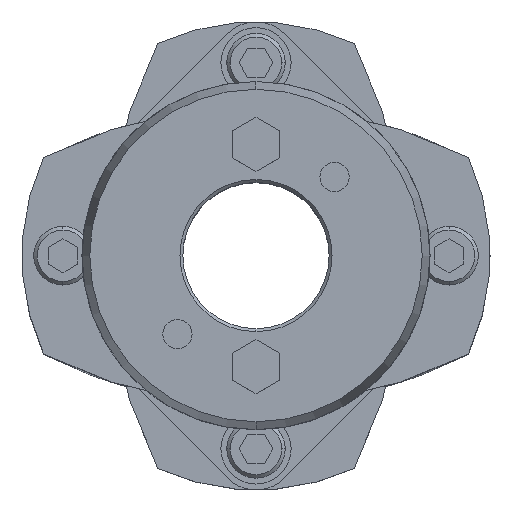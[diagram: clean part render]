
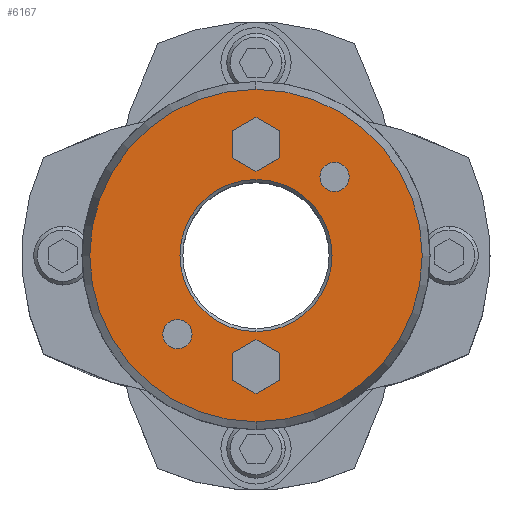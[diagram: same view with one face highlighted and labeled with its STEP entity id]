
A CAD part, top view. The second image highlights one B-rep face of the part: STEP entity #6167.
In plain terms, the highlighted planar face has unit normal (0, 0, 1).
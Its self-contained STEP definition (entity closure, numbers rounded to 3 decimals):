
#1677=CARTESIAN_POINT('',(0.,13.,45.25));
#1678=VERTEX_POINT('',#1677);
#1694=CARTESIAN_POINT('',(0.,-13.,45.25));
#1695=VERTEX_POINT('',#1694);
#1702=CARTESIAN_POINT('',(0.,0.,45.25));
#1703=DIRECTION('',(0.0,0.0,1.0));
#1704=DIRECTION('',(0.,1.0,0.0));
#1705=AXIS2_PLACEMENT_3D('',#1702,#1703,#1704);
#1706=CIRCLE('',#1705,13.0);
#1707=EDGE_CURVE('',#1695,#1678,#1706,.T.);
#1823=CARTESIAN_POINT('',(0.,-28.41,45.25));
#1824=VERTEX_POINT('',#1823);
#1833=CARTESIAN_POINT('',(0.,28.41,45.25));
#1834=VERTEX_POINT('',#1833);
#1835=CARTESIAN_POINT('',(0.,0.,45.25));
#1836=DIRECTION('',(0.0,0.0,-1.0));
#1837=DIRECTION('',(0.,-1.0,0.0));
#1838=AXIS2_PLACEMENT_3D('',#1835,#1836,#1837);
#1839=CIRCLE('',#1838,28.41);
#1840=EDGE_CURVE('',#1824,#1834,#1839,.T.);
#2009=CARTESIAN_POINT('',(13.435,15.935,45.25));
#2010=VERTEX_POINT('',#2009);
#2026=CARTESIAN_POINT('',(13.435,10.935,45.25));
#2027=VERTEX_POINT('',#2026);
#2034=CARTESIAN_POINT('',(13.435,13.435,45.25));
#2035=DIRECTION('',(0.0,0.0,-1.0));
#2036=DIRECTION('',(0.,1.0,0.0));
#2037=AXIS2_PLACEMENT_3D('',#2034,#2035,#2036);
#2038=CIRCLE('',#2037,2.5);
#2039=EDGE_CURVE('',#2010,#2027,#2038,.T.);
#2051=CARTESIAN_POINT('',(-13.435,-10.935,45.25));
#2052=VERTEX_POINT('',#2051);
#2068=CARTESIAN_POINT('',(-13.435,-15.935,45.25));
#2069=VERTEX_POINT('',#2068);
#2076=CARTESIAN_POINT('',(-13.435,-13.435,45.25));
#2077=DIRECTION('',(0.0,0.0,-1.0));
#2078=DIRECTION('',(0.,1.0,0.0));
#2079=AXIS2_PLACEMENT_3D('',#2076,#2077,#2078);
#2080=CIRCLE('',#2079,2.5);
#2081=EDGE_CURVE('',#2052,#2069,#2080,.T.);
#5293=CARTESIAN_POINT('',(0.,-14.381,45.25));
#5294=VERTEX_POINT('',#5293);
#5301=CARTESIAN_POINT('',(-4.,-16.691,45.25));
#5302=VERTEX_POINT('',#5301);
#5303=CARTESIAN_POINT('',(-4.,-16.691,45.25));
#5304=DIRECTION('',(0.866,0.5,0.0));
#5305=VECTOR('',#5304,4.619);
#5306=LINE('',#5303,#5305);
#5307=EDGE_CURVE('',#5302,#5294,#5306,.T.);
#5331=CARTESIAN_POINT('',(4.,-16.691,45.25));
#5332=VERTEX_POINT('',#5331);
#5339=CARTESIAN_POINT('',(0.,-14.381,45.25));
#5340=DIRECTION('',(0.866,-0.5,0.0));
#5341=VECTOR('',#5340,4.619);
#5342=LINE('',#5339,#5341);
#5343=EDGE_CURVE('',#5294,#5332,#5342,.T.);
#5362=CARTESIAN_POINT('',(4.,-21.309,45.25));
#5363=VERTEX_POINT('',#5362);
#5370=CARTESIAN_POINT('',(4.,-16.691,45.25));
#5371=DIRECTION('',(0.,-1.0,0.0));
#5372=VECTOR('',#5371,4.619);
#5373=LINE('',#5370,#5372);
#5374=EDGE_CURVE('',#5332,#5363,#5373,.T.);
#5393=CARTESIAN_POINT('',(0.,-23.619,45.25));
#5394=VERTEX_POINT('',#5393);
#5401=CARTESIAN_POINT('',(4.,-21.309,45.25));
#5402=DIRECTION('',(-0.866,-0.5,0.0));
#5403=VECTOR('',#5402,4.619);
#5404=LINE('',#5401,#5403);
#5405=EDGE_CURVE('',#5363,#5394,#5404,.T.);
#5424=CARTESIAN_POINT('',(-4.,-21.309,45.25));
#5425=VERTEX_POINT('',#5424);
#5432=CARTESIAN_POINT('',(0.,-23.619,45.25));
#5433=DIRECTION('',(-0.866,0.5,0.0));
#5434=VECTOR('',#5433,4.619);
#5435=LINE('',#5432,#5434);
#5436=EDGE_CURVE('',#5394,#5425,#5435,.T.);
#5454=CARTESIAN_POINT('',(-4.,-21.309,45.25));
#5455=DIRECTION('',(0.,1.0,0.0));
#5456=VECTOR('',#5455,4.619);
#5457=LINE('',#5454,#5456);
#5458=EDGE_CURVE('',#5425,#5302,#5457,.T.);
#5493=CARTESIAN_POINT('',(0.,23.619,45.25));
#5494=VERTEX_POINT('',#5493);
#5501=CARTESIAN_POINT('',(-4.,21.309,45.25));
#5502=VERTEX_POINT('',#5501);
#5503=CARTESIAN_POINT('',(-4.,21.309,45.25));
#5504=DIRECTION('',(0.866,0.5,0.0));
#5505=VECTOR('',#5504,4.619);
#5506=LINE('',#5503,#5505);
#5507=EDGE_CURVE('',#5502,#5494,#5506,.T.);
#5531=CARTESIAN_POINT('',(4.,21.309,45.25));
#5532=VERTEX_POINT('',#5531);
#5539=CARTESIAN_POINT('',(0.,23.619,45.25));
#5540=DIRECTION('',(0.866,-0.5,0.0));
#5541=VECTOR('',#5540,4.619);
#5542=LINE('',#5539,#5541);
#5543=EDGE_CURVE('',#5494,#5532,#5542,.T.);
#5562=CARTESIAN_POINT('',(4.,16.691,45.25));
#5563=VERTEX_POINT('',#5562);
#5570=CARTESIAN_POINT('',(4.,21.309,45.25));
#5571=DIRECTION('',(0.,-1.0,0.0));
#5572=VECTOR('',#5571,4.619);
#5573=LINE('',#5570,#5572);
#5574=EDGE_CURVE('',#5532,#5563,#5573,.T.);
#5593=CARTESIAN_POINT('',(0.,14.381,45.25));
#5594=VERTEX_POINT('',#5593);
#5601=CARTESIAN_POINT('',(4.,16.691,45.25));
#5602=DIRECTION('',(-0.866,-0.5,0.0));
#5603=VECTOR('',#5602,4.619);
#5604=LINE('',#5601,#5603);
#5605=EDGE_CURVE('',#5563,#5594,#5604,.T.);
#5624=CARTESIAN_POINT('',(-4.,16.691,45.25));
#5625=VERTEX_POINT('',#5624);
#5632=CARTESIAN_POINT('',(0.,14.381,45.25));
#5633=DIRECTION('',(-0.866,0.5,0.0));
#5634=VECTOR('',#5633,4.619);
#5635=LINE('',#5632,#5634);
#5636=EDGE_CURVE('',#5594,#5625,#5635,.T.);
#5654=CARTESIAN_POINT('',(-4.,16.691,45.25));
#5655=DIRECTION('',(0.,1.0,0.0));
#5656=VECTOR('',#5655,4.619);
#5657=LINE('',#5654,#5656);
#5658=EDGE_CURVE('',#5625,#5502,#5657,.T.);
#5684=CARTESIAN_POINT('',(-13.435,-13.435,45.25));
#5685=DIRECTION('',(0.0,0.0,-1.0));
#5686=DIRECTION('',(0.,1.0,0.0));
#5687=AXIS2_PLACEMENT_3D('',#5684,#5685,#5686);
#5688=CIRCLE('',#5687,2.5);
#5689=EDGE_CURVE('',#2069,#2052,#5688,.T.);
#5718=CARTESIAN_POINT('',(13.435,13.435,45.25));
#5719=DIRECTION('',(0.0,0.0,-1.0));
#5720=DIRECTION('',(0.,1.0,0.0));
#5721=AXIS2_PLACEMENT_3D('',#5718,#5719,#5720);
#5722=CIRCLE('',#5721,2.5);
#5723=EDGE_CURVE('',#2027,#2010,#5722,.T.);
#6114=CARTESIAN_POINT('',(0.,0.,45.25));
#6115=DIRECTION('',(0.0,0.0,-1.0));
#6116=DIRECTION('',(0.,-1.0,0.0));
#6117=AXIS2_PLACEMENT_3D('',#6114,#6115,#6116);
#6118=CIRCLE('',#6117,28.41);
#6119=EDGE_CURVE('',#1834,#1824,#6118,.T.);
#6124=CARTESIAN_POINT('',(0.,2.364,45.25));
#6125=DIRECTION('',(0.0,0.0,1.0));
#6126=DIRECTION('',(0.,1.0,0.0));
#6127=AXIS2_PLACEMENT_3D('',#6124,#6125,#6126);
#6128=PLANE('',#6127);
#6129=ORIENTED_EDGE('',*,*,#6119,.F.);
#6130=ORIENTED_EDGE('',*,*,#1840,.F.);
#6131=EDGE_LOOP('',(#6129,#6130));
#6132=FACE_OUTER_BOUND('',#6131,.T.);
#6133=ORIENTED_EDGE('',*,*,#5307,.T.);
#6134=ORIENTED_EDGE('',*,*,#5343,.T.);
#6135=ORIENTED_EDGE('',*,*,#5374,.T.);
#6136=ORIENTED_EDGE('',*,*,#5405,.T.);
#6137=ORIENTED_EDGE('',*,*,#5436,.T.);
#6138=ORIENTED_EDGE('',*,*,#5458,.T.);
#6139=EDGE_LOOP('',(#6133,#6134,#6135,#6136,#6137,#6138));
#6140=FACE_BOUND('',#6139,.T.);
#6141=ORIENTED_EDGE('',*,*,#5507,.T.);
#6142=ORIENTED_EDGE('',*,*,#5543,.T.);
#6143=ORIENTED_EDGE('',*,*,#5574,.T.);
#6144=ORIENTED_EDGE('',*,*,#5605,.T.);
#6145=ORIENTED_EDGE('',*,*,#5636,.T.);
#6146=ORIENTED_EDGE('',*,*,#5658,.T.);
#6147=EDGE_LOOP('',(#6141,#6142,#6143,#6144,#6145,#6146));
#6148=FACE_BOUND('',#6147,.T.);
#6149=ORIENTED_EDGE('',*,*,#2081,.T.);
#6150=ORIENTED_EDGE('',*,*,#5689,.T.);
#6151=EDGE_LOOP('',(#6149,#6150));
#6152=FACE_BOUND('',#6151,.T.);
#6153=ORIENTED_EDGE('',*,*,#2039,.T.);
#6154=ORIENTED_EDGE('',*,*,#5723,.T.);
#6155=EDGE_LOOP('',(#6153,#6154));
#6156=FACE_BOUND('',#6155,.T.);
#6157=ORIENTED_EDGE('',*,*,#1707,.F.);
#6158=CARTESIAN_POINT('',(0.,0.,45.25));
#6159=DIRECTION('',(0.0,0.0,1.0));
#6160=DIRECTION('',(0.,1.0,0.0));
#6161=AXIS2_PLACEMENT_3D('',#6158,#6159,#6160);
#6162=CIRCLE('',#6161,13.0);
#6163=EDGE_CURVE('',#1678,#1695,#6162,.T.);
#6164=ORIENTED_EDGE('',*,*,#6163,.F.);
#6165=EDGE_LOOP('',(#6157,#6164));
#6166=FACE_BOUND('',#6165,.T.);
#6167=ADVANCED_FACE('',(#6132,#6140,#6148,#6152,#6156,#6166),#6128,.T.);
